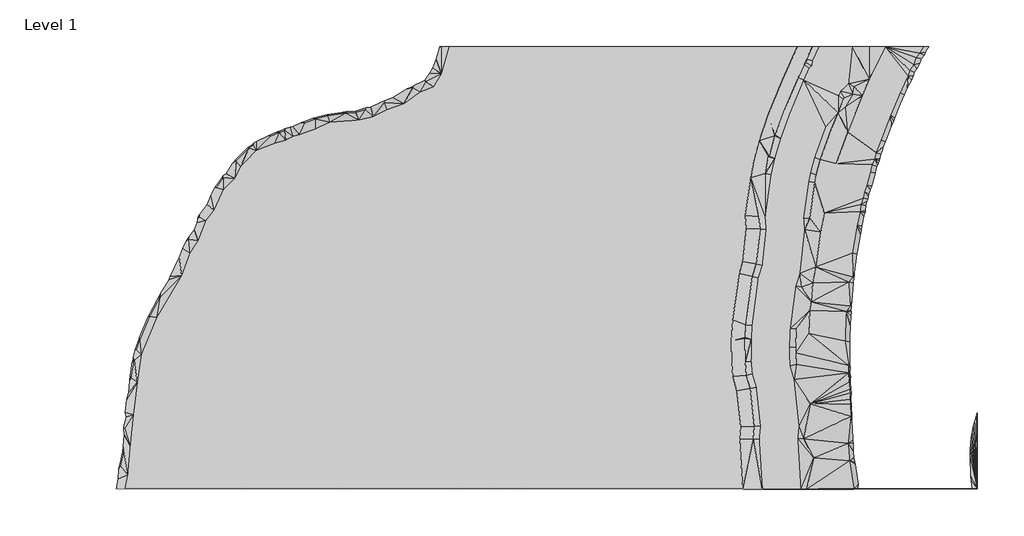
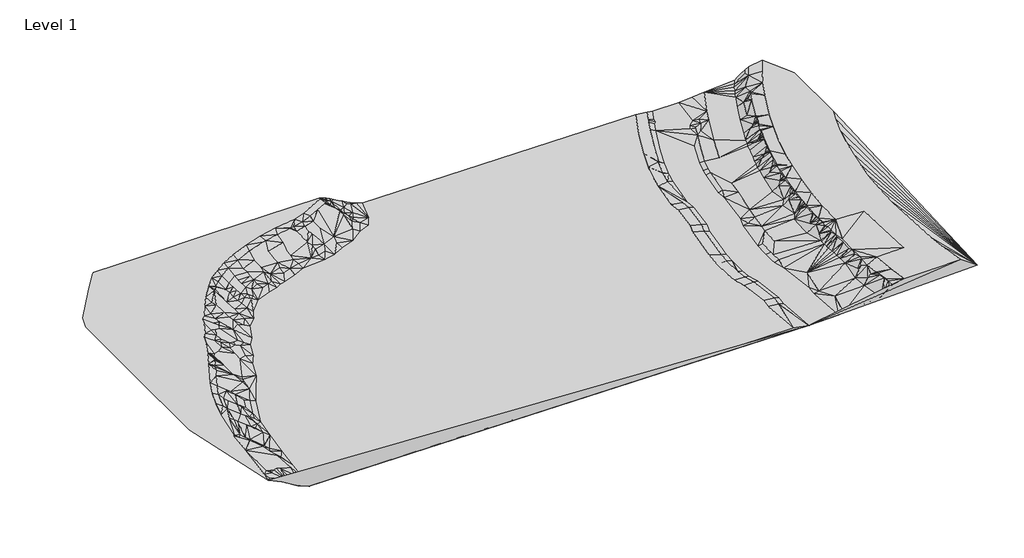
# One storey: 1 proxy.
"""IFC4 building model written with IfcOpenShell, lengths in millimetres."""

from ifc_helpers import new_model, si_unit, origin, place, context, project, spatial, triangles, element, save

model = new_model("IFC4")

# Units and contexts
model_context = context("Model", 3, world=origin())
ifc_project = project(units=[si_unit("LENGTHUNIT", "METRE", prefix="MILLI")], contexts=[model_context])

# Site, building, storey
site = spatial("IfcSite", under=ifc_project)
building = spatial("IfcBuilding", under=site)
storey = spatial("IfcBuildingStorey", under=building, Name="Level 1", Elevation=0.0)

# Proxy
placement = place(None, origin())
element("IfcBuildingElementProxy", 1, Name="Building Element Proxy", at=placement, inside=storey, context=model_context, shape_type="Tessellation", body=[
    triangles([(-116676.2735596, -32294.1497314, 9000.0000687), (-116676.2735596, 11611.0482513, 9000.0000687), (-116676.2735596, 46048.7566772, 9000.0000687), (-114721.8812256, 51743.71604, 9000.0000687), (-107628.8165039, -3064.8135086, 9000.0000687), (-107468.0542236, -76033.9217651, 9000.0000687), (-106894.5357422, -72001.3493042, 9000.0000687), (-105530.6468994, -73857.8545898, 8000.000061), (-104922.7398193, -54812.9240479, 9000.0000687), (-104125.4117432, 65879.8113281, 9000.0000687), (-104030.0501221, -44213.8733276, 9000.0000687), (-104029.5013184, -68672.3338989, 8000.000061), (-103868.9250732, 37662.6778564, 9000.0000687), (-103502.3893066, -43674.6829834, 9000.0000687), (-103493.1154541, -73571.5418335, 7000.0000534), (-103362.6303955, -76033.9217651, 7000.0000534), (-102433.4685059, -70185.5903687, 7000.0000534), (-102097.3866943, -44848.5276123, 8000.000061), (-102042.1435547, -68278.1021484, 7000.0000534), (-101800.9117676, 8238.9732651, 9000.0000687), (-101455.574707, -73285.2290771, 6000.0000458), (-101333.5263428, -76033.9217651, 6000.0000458), (-101159.2858154, -29721.5486206, 9000.0000687), (-100971.9577148, -43638.9177246, 8000.000061), (-100164.7139648, -45483.181897, 7000.0000534), (-100058.8134521, -67409.4760986, 6000.0000458), (-99620.4588135, -76033.9217651, 5000.0000381), (-99333.7507324, -44591.3014526, 7000.0000534), (-99300.236499, -22231.5360352, 9000.0000687), (-99077.2919678, -31942.2223755, 8000.000061), (-98232.0412354, -46117.8315308, 6000.0000458), (-98231.3715088, 47714.8177734, 9000.0000687), (-98029.9977539, -66022.4723877, 5000.0000381), (-97800.7001221, -45677.0723877, 6000.0000458), (-97701.1992188, -73178.8588257, 4000.0000305), (-97357.6201904, -32335.1611816, 7000.0000534), (-97282.0062012, 74628.9005493, 9000.0000687), (-97158.8044189, -23773.4907532, 8000.000061), (-97115.6256592, -15843.3003845, 9000.0000687), (-96288.4761475, -76033.9217651, 3000.0000229), (-96261.7708008, 75728.6938843, 9000.0000687), (-96068.2942383, -65407.6634033, 4000.0000305), (-95751.2252197, -32825.4638123, 6000.0000458), (-95613.6708252, -24715.8006775, 7000.0000534), (-95076.2524658, -17467.5942627, 8000.000061), (-94685.0019287, -47509.5698364, 4000.0000305), (-94643.5625977, -16232.367334, 8000.000061), (-94639.3954102, -49564.7234619, 4000.0000305), (-94598.8490479, -76033.9217651, 2000.0000153), (-94357.7102783, 24969.4247314, 9000.0000687), (-94284.8310059, -73454.4978149, 2000.0000153), (-94226.2764404, -9454.0490982, 9000.0000687), (-94108.8324463, -64803.5932983, 3000.0000229), (-94107.0837158, -25490.4440918, 6000.0000458), (-93612.6301758, -18519.5242401, 7000.0000534), (-93067.6959961, -48022.2315674, 3000.0000229), (-93014.5736572, -52429.1207153, 3000.0000229), (-92603.2871338, -34101.188269, 4000.0000305), (-92287.3436279, -76033.9217651, 1000.0000076), (-92279.0557617, -11165.8010101, 8000.000061), (-92138.5341064, -19321.7043457, 6000.0000458), (-92125.5023438, -63934.9672485, 2000.0000153), (-91524.3762451, -49225.8883301, 2000.0000153), (-91397.2398193, -54955.8734619, 2000.0000153), (-91300.1387695, -68158.1187744, 1000.0000076), (-90986.8555664, -26724.0664673, 4000.0000305), (-90972.1494873, -34467.4449829, 3000.0000229), (-90164.0220703, 31892.0254395, 9000.0000687), (-90142.181543, -63066.3365479, 1000.0000076), (-89828.814624, -55278.4351685, 1000.0000076), (-89808.1182129, -76033.9217651, 0.0), (-89614.4463135, -13443.4143127, 6000.0000458), (-89382.7674316, -27206.7579346, 3000.0000229), (-89345.3650635, -34942.8206177, 2000.0000153), (-89313.3112061, -5487.6348083, 8000.000061), (-89017.692041, -20517.0151062, 4000.0000305), (-88454.5357178, 1758.2880249, 9000.0000687), (-87681.4852295, -37956.0157654, 1000.0000076), (-87677.2994385, -27413.2453308, 2000.0000153), (-87648.9848877, -13282.2671722, 5000.0000381), (-87626.2885986, -2202.1046848, 8000.000061), (-87624.3631348, -21513.2566223, 3000.0000229), (-86704.4750977, -133.0016383, 8000.000061), (-86695.2384521, -31968.4417053, 1000.0000076), (-86414.409082, -14508.3667511, 4000.0000305), (-86273.1432861, 38792.7181824, 9000.0000687), (-86080.5875977, 934.0961088, 8000.000061), (-85989.4210693, 64987.4657959, 9000.0000687), (-85848.825, -28342.9164917, 1000.0000076), (-85754.7005127, -21424.10625, 2000.0000153), (-85398.4431885, 2317.584264, 8000.000061), (-84716.2987793, 3701.0723465, 8000.000061), (-84679.7614746, -24879.5162659, 1000.0000076), (-84533.2773926, 4282.377562, 8000.000061), (-84174.8248535, -29980.2909668, 0.0), (-84034.1543701, 5084.5605743, 8000.000061), (-83884.1449219, -16923.2960907, 2000.0000153), (-83809.554126, 5754.1708649, 8000.000061), (-83352.0192627, 6468.0488022, 8000.000061), (-82851.2963379, 7482.3124741, 8000.000061), (-82526.8789307, 14092.8653687, 9000.0000687), (-81797.090918, 1873.3286774, 6000.0000458), (-81342.2628662, -16907.584259, 1000.0000076), (-81164.9713623, 17837.2879761, 9000.0000687), (-80340.1751953, -2728.3663124, 4000.0000305), (-79955.501001, 9466.286142, 7000.0000534), (-79627.9116943, 19891.5346802, 9000.0000687), (-79388.0379639, 49351.6853027, 9000.0000687), (-79326.4882324, 17043.8747772, 8000.000061), (-78897.1562988, -17266.875119, 0.0), (-78362.7424072, -6383.9673065, 2000.0000153), (-77778.7268921, -10298.1900146, 1000.0000076), (-77499.0369873, -5015.5031616, 2000.0000153), (-77452.8351563, 16297.4598724, 7000.0000534), (-76953.6749268, -3439.0377594, 2000.0000153), (-76702.099585, 12563.0587463, 6000.0000458), (-76459.1144165, 26121.370697, 9000.0000687), (-75797.9408203, 21925.2593811, 8000.000061), (-75677.1807495, 28399.8688293, 9000.0000687), (-75489.1503662, 15671.3725067, 6000.0000458), (-75072.8687988, 19488.6906647, 7000.0000534), (-74866.3790771, 75728.6938843, 9000.0000687), (-74314.9104126, 29870.6209167, 9000.0000687), (-74245.7750977, 17418.4530762, 6000.0000458), (-73878.3417114, 27518.8388855, 8000.000061), (-73496.2161987, 22509.6074341, 7000.0000534), (-72713.273291, 12836.9315643, 4000.0000305), (-72189.2494629, 10089.2713715, 3000.0000229), (-72079.5026733, 26637.8089417, 7000.0000534), (-71657.5098267, 7354.2714523, 2000.0000153), (-71271.4124634, 15901.5607819, 4000.0000305), (-71023.2648193, 23592.8924744, 6000.0000458), (-70771.210437, 30994.9708923, 8000.000061), (-70747.5235107, 35678.8501099, 9000.0000687), (-70341.1622681, -2820.2115784, 0.0), (-70280.6636353, 25756.7789978, 6000.0000458), (-69936.8241577, 28960.6020447, 7000.0000534), (-69266.2185791, 14886.4529755, 3000.0000229), (-68997.3512695, 27236.409613, 6000.0000458), (-68789.5081421, 17106.7011749, 3000.0000229), (-68022.7409912, 9510.99039, 1000.0000076), (-67545.9514893, 4829.094191, 0.0), (-67535.7195557, 40424.9139038, 9000.0000687), (-66970.5912598, 15046.2885681, 2000.0000153), (-66544.7474854, 37560.5747864, 8000.000061), (-66261.9228882, 18346.8743134, 2000.0000153), (-65140.6703979, 36445.3893677, 7000.0000534), (-64862.6687622, 24276.7298035, 3000.0000229), (-64676.9219604, 9239.1424484, 0.0), (-64260.0311279, 17138.6643402, 1000.0000076), (-63495.7056885, 32965.5971191, 5000.0000381), (-62961.8406006, 46181.5206665, 9000.0000687), (-62815.5890625, 30925.4751343, 4000.0000305), (-62101.4187012, 15968.4101898, 0.0), (-61793.8932861, 43849.2537231, 8000.000061), (-61663.8268066, 29659.2500977, 3000.0000229), (-61139.2309204, 44429.6229492, 8000.000061), (-61021.9264526, 27559.2015381, 2000.0000153), (-60174.6990967, 45489.1164185, 8000.000061), (-59864.3366455, 45946.2327026, 8000.000061), (-59357.8977905, 38639.5368347, 5000.0000381), (-59305.0265991, 19580.9513123, 0.0), (-59188.2662842, 50121.317395, 9000.0000687), (-58605.7762573, 36873.7329895, 4000.0000305), (-58484.2580933, 27296.8896423, 1000.0000076), (-58348.4570801, 69132.6825439, 9000.0000687), (-57579.5877319, 35484.2224548, 3000.0000229), (-57552.7614624, 48215.0663086, 8000.000061), (-57054.5314087, 33395.5662231, 2000.0000153), (-56291.2431152, 44699.7971558, 6000.0000458), (-56080.5350464, 26676.529834, 0.0), (-56074.8191162, 30776.7679321, 1000.0000076), (-55195.5006958, 43420.7031372, 5000.0000381), (-54952.7480713, 53607.4208862, 9000.0000687), (-54808.8824341, 41447.8561157, 4000.0000305), (-54539.7546753, 50837.6969238, 8000.000061), (-53805.0878906, 40072.7633057, 3000.0000229), (-53039.8136719, 47671.2669434, 6000.0000458), (-52678.2357422, 38782.9838928, 2000.0000153), (-52254.5220703, 46165.7634888, 5000.0000381), (-52252.1315186, 30397.8282715, 0.0), (-51719.5082153, 36405.1732178, 1000.0000076), (-51435.6232178, 44678.5240356, 4000.0000305), (-50502.4941284, 43276.3119507, 3000.0000229), (-50184.4949341, 34459.2129272, 0.0), (-50183.4949951, 56660.4903442, 9000.0000687), (-49785.7657837, 41667.2799316, 2000.0000153), (-49780.798645, 54011.8845703, 8000.000061), (-48844.1906982, 50605.5715576, 6000.0000458), (-48356.7041748, 48958.9743896, 5000.0000381), (-47828.3643311, 42992.6083374, 2000.0000153), (-47608.8567993, 47453.7499878, 4000.0000305), (-47300.1919189, 40853.952832, 1000.0000076), (-46807.4545532, 45980.1283081, 3000.0000229), (-45832.8768311, 41940.7516113, 1000.0000076), (-44805.17677, 40098.4640625, 0.0), (-44740.7993042, 44978.891748, 2000.0000153), (-44491.3075562, 59540.2727051, 9000.0000687), (-44190.4328979, 75728.6938843, 9000.0000687), (-44033.154126, 56996.5070435, 8000.000061), (-43704.4532593, 53404.4286255, 6000.0000458), (-42642.3180908, 52042.9535889, 5000.0000381), (-42352.2892822, 50340.0947388, 4000.0000305), (-41689.9529663, 48801.7374756, 3000.0000229), (-41350.3225342, 46961.7474609, 2000.0000153), (-39908.5640259, 44971.980542, 1000.0000076), (-38494.2666321, 42519.6511597, 0.0), (-37219.6002502, 59818.306897, 8000.000061), (-37175.0355286, 56213.978064, 6000.0000458), (-37013.1477356, 62548.5262939, 9000.0000687), (-36879.0117371, 46196.5848633, 1000.0000076), (-35964.0606079, 53093.6522461, 4000.0000305), (-35931.141687, 51333.7224609, 3000.0000229), (-35037.3543823, 46892.4168091, 1000.0000076), (-34697.098407, 43596.6877441, 0.0), (-33769.7364075, 50078.9990479, 2000.0000153), (-32183.3588196, 44940.8382568, 0.0), (-30079.5546753, 45477.1357544, 0.0), (-29664.4683838, 62294.8208496, 8000.000061), (-29657.9664551, 58762.6969116, 6000.0000458), (-29503.6223877, 64938.3897217, 9000.0000687), (-28730.7904907, 55551.4836182, 4000.0000305), (-28424.7998657, 62699.4194092, 8000.000061), (-28413.4703247, 52054.9621582, 2000.0000153), (-28237.7275635, 53952.8602661, 3000.0000229), (-28237.5043213, 49457.8044067, 1000.0000076), (-24605.3632324, 47462.0518066, 0.0), (-24554.1919373, 50849.4636475, 1000.0000076), (-22607.280542, 64008.7534424, 8000.000061), (-22087.1611267, 57248.4498047, 4000.0000305), (-21976.5492737, 60651.9490356, 6000.0000458), (-21871.5394043, 66697.1660889, 9000.0000687), (-21582.6105286, 55643.8779785, 3000.0000229), (-21392.1593628, 53962.2550415, 2000.0000153), (-20322.4246582, 51937.8018677, 1000.0000076), (-19561.5408691, 49783.2078003, 0.0), (-16622.4725922, 64988.8889648, 8000.000061), (-16045.4903687, 65178.3425171, 8000.000061), (-14706.0988678, 65302.4140137, 8000.000061), (-14285.6698792, 63591.9416748, 7000.0000534), (-14230.3093048, 52863.9685913, 1000.0000076), (-12549.9374542, 58821.1166016, 4000.0000305), (-12447.947168, 68343.9911499, 9000.0000687), (-11149.6659485, 57447.5678833, 3000.0000229), (-10797.9699738, 55773.7863281, 2000.0000153), (-10739.71539, 53096.5311401, 1000.0000076), (-10438.8953796, 66342.8435303, 8000.000061), (-10356.5411041, 64495.3283936, 7000.0000534), (-9751.0530624, 50521.0790405, 0.0), (-9711.1095703, 62950.7156982, 6000.0000458), (-8892.7176636, 61471.6292358, 5000.0000381), (-7955.6748596, 60044.0140503, 4000.0000305), (-7647.7965591, 70061.2444702, 9000.0000687), (-7405.6741287, 54079.3176636, 1000.0000076), (-6085.5669159, 57124.0713501, 2000.0000153), (-5786.7834091, 68190.5307495, 8000.000061), (-5712.9507065, 66268.2341309, 7000.0000534), (-4943.7790512, 64786.2920288, 6000.0000458), (-4714.4052612, 51724.4009399, 0.0), (-4174.4056641, 63304.4475952, 5000.0000381), (-1190.7351677, 70477.2330322, 8000.000061), (-912.8562716, 56489.0263916, 1000.0000076), (-461.6014029, 59535.3009155, 2000.0000153), (9.8007258, 53993.7600952, 0.0), (2166.8123623, 74936.7282715, 9000.0000687), (2555.0696228, 75728.6938843, 9000.0000687), (3057.5781944, 72590.7691406, 8000.000061), (4046.3347023, 73082.7437622, 8000.000061), (4472.4889229, 74188.9088013, 8000.000061), (4892.3961411, 74807.0943237, 8000.000061), (5233.8346024, 75728.6938843, 8000.000061), (5319.5032104, 71783.2835449, 7000.0000534), (5757.4939178, 56059.9874634, 0.0), (6498.6265869, 70496.0737427, 6000.0000458), (6573.7295609, 74270.2247681, 7000.0000534), (7114.0721603, 75728.6938843, 7000.0000534), (7691.3404129, 69235.1646606, 5000.0000381), (8153.1267609, 69812.1247925, 5000.0000381), (8661.6463028, 67873.2524414, 4000.0000305), (8842.2846954, 61594.910083, 1000.0000076), (8908.9579514, 75728.6938843, 6000.0000458), (9337.3951721, 68572.7632324, 4000.0000305), (10514.5721558, 65046.494751, 2000.0000153), (10544.058728, 67393.9421631, 3000.0000229), (10673.9728912, 75728.6938843, 5000.0000381), (10813.0957947, 71640.4736572, 4000.0000305), (11349.4677063, 60120.8977295, 0.0), (11657.3570526, 65982.5352905, 2000.0000153), (12132.5222351, 66649.6155029, 2000.0000153), (12455.0630127, 75728.6938843, 4000.0000305), (13322.2275238, 63691.8797607, 1000.0000076), (13633.0225067, 69629.3685059, 2000.0000153), (13885.1187469, 74721.6390747, 3000.0000229), (14239.3982849, 75728.6938843, 3000.0000229), (15722.6612366, 74835.353064, 2000.0000153), (16002.4057892, 62005.9501099, 0.0), (16020.4953827, 75728.6938843, 2000.0000153), (18626.7444397, 75728.6938843, 1000.0000076), (18661.2772156, 66354.0149414, 0.0), (21321.7636597, 75728.6938843, 0.0), (118073.5185059, -25230.206488, -1000.0000076), (118131.3382324, -32628.5549011, -1000.0000076), (118507.4083008, -37493.7160767, -1000.0000076), (118515.696167, -18089.7551239, -1000.0000076), (119964.8263184, -42464.2033813, -1000.0000076), (120683.8428955, -2109.3516254, -1000.0000076), (120856.4184082, -58849.7195068, -1000.0000076), (121274.9696045, -54693.5452881, -1000.0000076), (121902.4940918, -76033.9217651, -1000.0000076), (122001.1764404, 1998.2021599, -1000.0000076), (122690.0739258, -24375.1191467, -1500.0000114), (122766.9994629, -32434.678363, -1500.0000114), (122815.5081299, 17745.5982239, -1000.0000076), (122862.7424561, -24126.2668945, -1500.0000114), (123057.9956543, -19791.2710327, -1500.0000114), (123184.173999, -37022.5959961, -1500.0000114), (123203.9495361, 13205.4137238, -1000.0000076), (124530.7801758, -41548.4081177, -1500.0000114), (124676.4922119, 30839.0990112, -1000.0000076), (124848.3049805, -32347.6325134, -2000.0000153), (124915.7520264, -24819.8547913, -2000.0000153), (125134.3526367, -19966.4324341, -2000.0000153), (125222.2263428, -3143.9037392, -1500.0000114), (125232.1885254, -36604.7122009, -2000.0000153), (125515.0921875, -58892.535498, -1500.0000114), (125835.8074951, 37109.0628113, -1000.0000076), (125934.9177246, -54654.8174194, -1500.0000114), (126561.7352783, 1032.7848524, -1500.0000114), (126580.7852783, -41137.2332153, -2000.0000153), (127261.0693359, -3604.599456, -2000.0000153), (127507.1659424, 17348.3538666, -1500.0000114), (127534.6712402, 43485.234082, -1000.0000076), (127604.2576904, -58935.2166138, -2000.0000153), (127862.0838135, 13149.3066833, -1500.0000114), (128027.1249023, -54637.4277832, -2000.0000153), (128609.3126221, 599.3356556, -2000.0000153), (128701.1209717, -76106.7824341, -2000.0000153), (129601.3543945, 17296.3151825, -2000.0000153), (129603.1868408, 32100.1848267, -1500.0000114), (129953.4724365, 13124.1151978, -2000.0000153), (130567.7512207, 52085.0533447, -1000.0000076), (130762.7160645, 37907.2978088, -1500.0000114), (130969.6522705, 38165.7843567, -1500.0000114), (131651.2571777, 31723.7543152, -2000.0000153), (132870.4757813, 37208.5311584, -2000.0000153), (132920.221582, 45107.1443848, -1500.0000114), (133144.8032227, 45302.0813232, -1500.0000114), (134925.8759033, 44090.9459473, -2000.0000153), (135465.1732178, 64195.0211426, -1000.0000076), (136076.8568115, 53373.1142578, -1500.0000114), (137948.1286377, -27514.5019409, -2000.0000153), (137962.3696289, -29458.9367432, -2000.0000153), (138013.3153564, 52607.9051514, -2000.0000153), (138143.7166992, -33848.6385681, -2000.0000153), (138238.3155762, -21071.8882141, -2000.0000153), (139518.4420898, -38542.3171875, -2000.0000153), (140030.7829102, -27549.909082, -1500.0000114), (140044.5030029, -29459.4878723, -1500.0000114), (140128.2839355, -6512.069371, -2000.0000153), (140198.6145264, -33398.4846497, -1500.0000114), (140314.6632568, -21247.0519409, -1500.0000114), (140679.9618896, 75728.6938843, -1000.0000076), (140831.7944824, -58706.9468262, -2000.0000153), (140917.6218018, 65014.0967285, -1500.0000114), (141231.1282471, -54527.6995972, -2000.0000153), (141531.6773437, -2136.1800751, -2000.0000153), (141867.8986816, -76033.9217651, -2000.0000153), (142236.480835, -6756.4968933, -1500.0000114), (142816.9012207, 16960.643811, -2000.0000153), (142818.6034424, 64164.6322998, -2000.0000153), (142904.0679932, -58909.8414185, -1500.0000114), (142939.5355957, 69540.6297363, -1500.0000114), (143152.3133057, 12965.1330414, -2000.0000153), (143682.5321045, 70224.5321777, -1500.0000114), (143799.7993652, 71390.9260986, -1500.0000114), (143954.320166, -76033.9217651, -1500.0000114), (144487.0504395, -22746.006958, -1000.0000076), (144576.710083, 29348.0714172, -2000.0000153), (144668.2579834, 68301.9472046, -2000.0000153), (144897.0905273, -14822.820813, -1000.0000076), (144911.0989746, 16908.605127, -1500.0000114), (145006.6652344, -46825.8627319, -1000.0000076), (145168.1344482, 32310.0069031, -2000.0000153), (145349.6024414, -11830.9662231, -1000.0000076), (145675.043042, 69228.6580811, -2000.0000153), (145813.3973877, 75728.6938843, -1500.0000114), (145837.4889404, 70844.5036377, -2000.0000153), (145958.0304199, -5335.1499298, -1000.0000076), (146218.0331543, -65404.6868408, -1000.0000076), (146557.296167, 37558.4353821, -2000.0000153), (146624.7804199, 28971.6409058, -1500.0000114), (146897.6288818, 101.938409, -1000.0000076), (147197.545459, 31840.1309326, -1500.0000114), (148118.1869385, 75728.6938843, -2000.0000153), (148538.4496582, 36915.8211182, -1500.0000114), (148729.64729, 12101.0299713, -1000.0000076), (149798.5029785, 18622.528418, -1000.0000076), (150362.9336426, 48098.292041, -2000.0000153), (152290.1648438, 47310.1029419, -1500.0000114), (153937.5712646, 35504.9281677, -1000.0000076), (154697.6830078, 53098.7403076, -1500.0000114), (154815.8060303, 58803.6339478, -2000.0000153), (155571.173877, 60478.0433716, -2000.0000153), (156476.0674805, 57410.2771362, -1500.0000114), (156716.7783691, 57954.169519, -1500.0000114), (157060.9248047, -25330.5329224, 0.0), (157158.9095215, 54960.9336182, -1500.0000114), (157464.0443848, -15201.0674927, 0.0), (157884.0931641, 46432.0960693, -1000.0000076), (158145.6585938, -60407.9639282, 0.0), (158249.8382813, 62943.6463623, -2000.0000153), (158293.1472656, -5124.530809, 0.0), (158340.7350586, -33627.3637024, 1000.0000076), (158353.9807617, -36300.849353, 1000.0000076), (158426.7577148, -34272.1801575, 1000.0000076), (158484.0379395, -39306.6054199, 1000.0000076), (158587.3804687, -37788.326001, 1000.0000076), (158606.0583984, -66324.3237305, 0.0), (158672.5287598, -41893.0754517, 1000.0000076), (158744.1336914, -45318.1268555, 1000.0000076), (158811.5342285, -43117.4239746, 1000.0000076), (158872.9816406, -13291.7921722, 1000.0000076), (158912.5513184, -47705.2137085, 1000.0000076), (158938.6892578, -46878.3385986, 1000.0000076), (159033.4741699, -51119.9959717, 1000.0000076), (159535.1923828, 75728.6938843, -2000.0000153), (159549.5915039, 4807.7452034, 0.0), (159574.7620605, -30465.8310974, 2000.0000153), (159647.9296875, -23123.4397339, 2000.0000153), (159727.682959, 59388.6959106, -1500.0000114), (159781.7261719, -3297.6283676, 1000.0000076), (160110.524707, -76033.9217651, 0.0), (160126.9888184, -13290.5259705, 2000.0000153), (160242.3492187, 61947.7722656, -1500.0000114), (160548.4142578, -57855.6918091, 2000.0000153), (160771.7680664, -5447.4913284, 2000.0000153), (160803.6730957, -26271.680127, 3000.0000229), (160993.4847656, -64787.3524292, 2000.0000153), (161170.3111816, -76033.9217651, 1000.0000076), (161231.2376953, 14501.7985474, 0.0), (161331.5478516, -13897.974939, 3000.0000229), (161814.6811523, -58030.7043823, 3000.0000229), (162011.5063477, 4375.8997604, 2000.0000153), (162212.2010742, -4004.6834656, 3000.0000229), (162249.3708984, -64817.9180054, 3000.0000229), (162252.1242188, 19076.0530609, 0.0), (162445.0798828, -25388.0084839, 4000.0000305), (162464.4461426, 21463.2317688, 0.0), (162505.0390137, -76033.9217651, 2000.0000153), (162532.5164063, -23017.3276062, 4000.0000305), (162546.5992676, -22713.6205627, 4000.0000305), (162562.2448242, -29789.9653748, 4000.0000305), (162562.9703613, -29396.3870728, 4000.0000305), (162633.6637207, -20539.7276733, 4000.0000305), (162647.746582, -20236.0206299, 4000.0000305), (162679.0562988, -34388.7125793, 4000.0000305), (162679.7818359, -33995.1342773, 4000.0000305), (162734.8296387, -18062.1289032, 4000.0000305), (162748.8938965, -17758.420697, 4000.0000305), (162797.3188477, -38200.3008545, 4000.0000305), (162835.3630371, -38532.1782715, 4000.0000305), (162835.9769531, -15584.5289703, 4000.0000305), (162839.5488281, 58789.5092285, -1000.0000076), (162850.0598145, -15280.8219269, 4000.0000305), (162876.9046875, -24139.4823669, 4000.0000305), (162947.8770996, -42733.6613525, 4000.0000305), (162983.2609863, -21666.723999, 4000.0000305), (163028.3373047, -13121.3258331, 4000.0000305), (163089.5986816, -19193.9667938, 4000.0000305), (163098.4539551, -47267.0265015, 4000.0000305), (163167.1753418, -27131.4532288, 4000.0000305), (163168.8682617, -27475.2764282, 4000.0000305), (163189.1833008, -33318.7871887, 4000.0000305), (163193.7783691, -30827.5183228, 4000.0000305), (163195.936377, -16721.2084259, 4000.0000305), (163214.0748047, -36671.0290833, 4000.0000305), (163216.6979004, -51078.6124512, 4000.0000305), (163233.459668, -10660.5760345, 4000.0000305), (163248.1564453, -51581.0282959, 4000.0000305), (163260.304541, -10359.3223297, 4000.0000305), (163272.9921387, 23650.3075745, 0.0), (163325.137793, -14251.8498505, 4000.0000305), (163367.2747559, -55611.9776001, 4000.0000305), (163438.5820312, -8199.826236, 4000.0000305), (163448.0884277, -42100.6720825, 4000.0000305), (163465.4083008, -7898.5725311, 4000.0000305), (163511.8612793, 5723.9808472, 3000.0000229), (163517.8330078, -60145.3380981, 4000.0000305), (163535.2831055, -11797.0601532, 4000.0000305), (163643.7043945, -5739.0770187, 4000.0000305), (163670.2702148, 13955.6865326, 2000.0000153), (163670.5306641, -5437.8227325, 4000.0000305), (163682.939209, 25704.1077942, 0.0), (163711.588623, -48391.2881104, 4000.0000305), (163745.4470215, -9342.2722, 4000.0000305), (163830.3720703, -76033.9217651, 3000.0000229), (163940.0956055, -3311.7635513, 4000.0000305), (163945.6022461, -53820.9287842, 4000.0000305), (163946.9789063, -40416.9143921, 4000.0000305), (163947.4998047, -65595.7682007, 4000.0000305), (163955.6109375, -6887.4830841, 4000.0000305), (163979.6466797, -3015.7682465, 4000.0000305), (164188.6757812, -4440.8231232, 4000.0000305), (164249.2116211, -889.7086292, 4000.0000305), (164288.7626953, -593.713397, 4000.0000305), (164340.5734863, -68205.3065918, 4000.0000305), (164487.2436035, -66685.5528442, 4000.0000305), (164502.5542969, -2026.2353325, 4000.0000305), (164517.6975586, 28170.4060913, 0.0), (164558.3276367, 1532.3461475, 4000.0000305), (164597.8787109, 1828.3414524, 4000.0000305), (164733.647168, -70814.8449829, 4000.0000305), (164816.4328125, 388.3523129, 4000.0000305), (164862.7555664, -69169.6012207, 4000.0000305), (164867.4436523, 3954.4010696, 4000.0000305), (164906.9947266, 4250.3960838, 4000.0000305), (165082.4444824, -73137.019519, 4000.0000305), (165130.2927246, 2802.9399582, 4000.0000305), (165238.2675293, -71653.6449463, 4000.0000305), (165239.0302734, 64453.8053467, -1000.0000076), (165240.853418, 15233.565509, 3000.0000229), (165266.8797363, 6321.306015, 4000.0000305), (165318.9881836, 6608.9617126, 4000.0000305), (165378.9845215, 75728.6938843, -1500.0000114), (165466.8489258, 5203.9951447, 4000.0000305), (165519.7759277, -76033.9217651, 4000.0000305), (165678.8545898, 8679.8713531, 4000.0000305), (165756.0033691, 23252.6923096, 2000.0000153), (165762.384375, 32690.5022827, 0.0), (165883.2700195, 7553.5482422, 4000.0000305), (166090.8480469, 11038.4366913, 4000.0000305), (166299.6725098, 9903.1013397, 4000.0000305), (166341.3257812, 35290.3482422, 0.0), (166554.9685547, 13684.6588898, 4000.0000305), (167004.1504395, 15682.875293, 4000.0000305), (167068.6860352, 15960.2525482, 4000.0000305), (167163.136084, 14613.9230988, 4000.0000305), (167175.65625, 37043.2714783, 0.0), (167328.4097168, 24220.577417, 3000.0000229), (167401.298291, -29589.5217957, 5000.0000381), (167517.8679199, 17958.4689514, 4000.0000305), (167582.4035156, 18235.8450439, 4000.0000305), (167689.5597656, -18897.6755768, 5000.0000381), (167697.3360352, 16940.1008789, 4000.0000305), (167699.4196289, 39364.6530396, 0.0), (168031.5854004, 20234.0626099, 4000.0000305), (168231.5359863, 19266.2786591, 4000.0000305), (168352.8681152, -9241.4155655, 5000.0000381), (168433.3097168, -58719.9460327, 5000.0000381), (168545.3028809, 22509.6539429, 4000.0000305), (168609.819873, 22787.0323608, 4000.0000305), (168765.7359375, 21592.4564392, 4000.0000305), (168790.0135254, 33921.2922729, 2000.0000153), (169143.5361328, 24714.3542542, 4000.0000305), (169245.7438477, -68124.3719971, 5000.0000381), (169314.0931641, 23869.803479, 4000.0000305), (169385.0841797, 43538.8726685, 0.0), (169422.979541, 285.3020077, 5000.0000381), (169753.359375, 26909.3807373, 4000.0000305), (169929.4416504, 26054.2840942, 4000.0000305), (170066.7169922, 33797.9184082, 3000.0000229), (170363.1826172, 29104.4095459, 4000.0000305), (170472.0317871, -76033.9217651, 5000.0000381), (170544.7715332, 28238.762384, 4000.0000305), (170715.7006348, 75728.6938843, -1000.0000076), (170894.6664551, 9582.3273148, 5000.0000381), (170973.0058594, 31299.4360291, 4000.0000305), (171049.1500488, 31567.1406189, 4000.0000305), (171160.1200195, 30423.2429993, 4000.0000305), (171655.4758301, 33426.3666687, 4000.0000305), (171793.551123, 32590.5409424, 4000.0000305), (171801.4576172, 42871.6622314, 2000.0000153), (172347.8800781, 35543.93974, 4000.0000305), (172490.2527832, 34698.0518372, 4000.0000305), (172538.5103027, 17675.7862061, 5000.0000381), (172604.329541, 51973.7624634, 0.0), (173040.2843262, 37661.5151367, 4000.0000305), (173186.9544434, 36805.5650574, 4000.0000305), (173248.4018555, 43179.4480957, 3000.0000229), (173818.729834, 40037.4352295, 4000.0000305), (174507.5063965, 41882.117981, 4000.0000305), (174584.264502, 40976.9453247, 4000.0000305), (174620.0018555, 42174.355957, 4000.0000305), (174899.2220215, 50987.4459229, 2000.0000153), (175005.9503906, 27205.9579834, 5000.0000381), (175308.778418, 44019.0387085, 4000.0000305), (175409.2560059, 43151.4870117, 4000.0000305), (175421.273877, 44311.2813354, 4000.0000305), (175970.9333496, 59894.7952515, 0.0), (176110.0504395, 46155.959436, 4000.0000305), (176234.2289063, 45326.0240479, 4000.0000305), (177599.5595215, 35570.1055847, 5000.0000381), (178250.7011719, 58869.6252686, 2000.0000153), (178593.8244141, 65600.3911743, 0.0), (179268.1460449, 67623.58396, 0.0), (179384.7900879, 58330.5930542, 3000.0000229), (179589.6706055, -29824.1842163, 5000.0000381), (180186.7504395, 56169.1528931, 4000.0000305), (180335.1320801, 43239.6862793, 5000.0000381), (180613.4964844, -58215.302417, 5000.0000381), (180624.5283691, 69535.5928345, 0.0), (181334.5501465, 71828.4714844, 0.0), (181860.4715332, 59825.6831909, 4000.0000305), (182578.232373, 61387.0343994, 4000.0000305), (182655.2323242, 73470.7991455, 0.0), (182658.8600098, 60599.0778442, 4000.0000305), (182809.1206055, -76033.9217651, 5000.0000381), (182855.0526855, 7224.2683411, 5000.0000381), (182990.4118652, 65937.6078003, 3000.0000229), (183956.0645508, 75728.6938843, 0.0), (185211.5228027, 55146.4153198, 5000.0000381), (185398.3765137, 75728.6938843, 1000.0000076), (185845.270166, 74000.8923706, 2000.0000153), (186840.7070801, 75728.6938843, 2000.0000153), (187347.7272949, 74105.2208862, 3000.0000229), (187378.9253906, 70892.8588257, 4000.0000305), (188283.05625, 75728.6938843, 3000.0000229), (188751.1020996, 62650.8921387, 5000.0000381), (190165.0437012, 75728.6938843, 4000.0000305), (191644.8975586, 38689.9081787, 5000.0000381), (191778.0429199, -30058.8489624, 5000.0000381), (192085.261377, -19383.7226532, 5000.0000381), (192274.3475098, 69375.9932739, 5000.0000381), (192704.3119629, -10783.5150421, 5000.0000381), (192793.7018555, -57710.6588013, 5000.0000381), (193369.40625, -64217.4383789, 5000.0000381), (193678.9501465, -2358.1307716, 5000.0000381), (194815.438916, 4866.1663467, 5000.0000381), (195146.2280273, -76033.9217651, 5000.0000381), (195934.5147949, 75728.6938843, 5000.0000381), (196516.7862305, 13061.7131927, 5000.0000381), (198356.1344238, 20190.597821, 5000.0000381), (200625.7075195, 27554.941333, 5000.0000381), (202389.0603516, -76033.9217651, 0.0), (202389.0603516, 32615.9789246, 5000.0000381), (202389.0603516, 62484.8790161, 5000.0000381), (-85300.1980225, 8238.9732651, 9000.0000687), (-85510.8921387, -39486.8641846, 0.0), (-86875.8227783, -50603.3809937, 0.0), (-87994.2754395, -61244.7640137, 0.0), (-88865.8408447, -71206.7140869, 0.0)], [[6, 16, 8], [337, 22, 16], [7, 8, 15], [8, 7, 6], [15, 8, 16], [7, 15, 17], [16, 22, 15], [1, 6, 7], [22, 27, 21], [337, 40, 27], [17, 21, 35], [17, 15, 21], [35, 21, 27], [17, 35, 26], [27, 40, 35], [21, 15, 22], [27, 22, 337], [7, 17, 12], [12, 19, 9], [19, 12, 17], [9, 25, 18], [31, 25, 9], [24, 18, 25], [9, 18, 11], [9, 19, 26], [12, 9, 7], [9, 48, 31], [33, 26, 35], [28, 31, 34], [28, 25, 31], [46, 34, 31], [58, 28, 34], [33, 42, 9], [9, 26, 33], [19, 17, 26], [24, 25, 28], [33, 35, 42], [1, 7, 9], [40, 49, 51], [337, 59, 49], [53, 42, 65], [42, 35, 51], [65, 42, 51], [64, 42, 53], [49, 59, 51], [51, 35, 40], [59, 71, 641], [309, 71, 337], [69, 62, 65], [62, 53, 65], [65, 51, 641], [69, 65, 641], [71, 309, 641], [51, 59, 641], [71, 59, 337], [64, 53, 62], [48, 57, 63], [9, 57, 48], [48, 56, 46], [56, 48, 63], [638, 78, 56], [34, 46, 78], [57, 639, 63], [46, 31, 48], [69, 640, 64], [640, 69, 641], [70, 639, 57], [70, 64, 640], [639, 70, 640], [70, 57, 64], [639, 640, 307], [57, 9, 64], [69, 64, 62], [56, 78, 46], [640, 641, 309], [42, 64, 9], [49, 40, 337], [56, 63, 638], [11, 14, 1], [11, 18, 14], [14, 23, 1], [30, 23, 14], [30, 14, 24], [29, 1, 23], [18, 24, 14], [11, 1, 9], [36, 43, 54], [36, 30, 24], [36, 44, 30], [44, 36, 54], [55, 38, 44], [30, 44, 23], [43, 66, 54], [36, 24, 43], [28, 43, 24], [38, 23, 44], [39, 5, 29], [38, 29, 23], [2, 5, 20], [2, 1, 5], [52, 20, 5], [2, 20, 50], [29, 38, 45], [5, 1, 29], [45, 47, 39], [55, 45, 38], [50, 20, 637], [60, 52, 39], [52, 77, 20], [52, 5, 39], [60, 39, 47], [45, 39, 29], [45, 55, 47], [2, 50, 13], [44, 54, 61], [613, 610, 605], [73, 67, 84], [78, 74, 67], [58, 73, 66], [73, 58, 67], [66, 73, 82], [54, 66, 76], [67, 74, 84], [78, 67, 58], [84, 79, 73], [638, 84, 78], [66, 82, 76], [73, 79, 82], [93, 82, 79], [85, 76, 97], [76, 82, 90], [74, 78, 84], [28, 58, 43], [76, 61, 54], [55, 61, 72], [55, 44, 61], [75, 60, 80], [60, 47, 72], [80, 60, 72], [75, 77, 52], [76, 72, 61], [72, 47, 55], [75, 105, 81], [85, 80, 72], [77, 81, 83], [77, 75, 81], [105, 83, 81], [637, 20, 77], [85, 112, 80], [111, 75, 80], [76, 85, 72], [75, 52, 60], [84, 89, 79], [66, 43, 58], [34, 78, 58], [87, 77, 83], [639, 638, 63], [95, 89, 84], [95, 638, 110], [93, 90, 82], [93, 89, 95], [90, 93, 103], [97, 76, 90], [95, 110, 93], [95, 84, 638], [90, 103, 97], [103, 93, 110], [105, 75, 111], [112, 85, 103], [102, 105, 115], [111, 80, 112], [103, 110, 112], [103, 85, 97], [638, 135, 110], [83, 105, 87], [92, 77, 91], [91, 87, 102], [77, 94, 637], [77, 92, 94], [94, 92, 102], [637, 94, 96], [91, 102, 92], [91, 77, 87], [96, 102, 98], [102, 96, 94], [99, 100, 637], [99, 98, 102], [100, 99, 102], [99, 637, 98], [106, 100, 102], [96, 98, 637], [87, 105, 102], [101, 637, 100], [113, 105, 111], [79, 89, 93], [305, 307, 308], [307, 305, 303], [312, 302, 303], [249, 149, 135], [135, 303, 259], [301, 302, 312], [316, 312, 303], [135, 638, 639], [318, 305, 308], [307, 325, 308], [314, 311, 321], [311, 301, 312], [315, 314, 322], [311, 314, 301], [321, 311, 312], [305, 316, 303], [307, 303, 135], [301, 314, 315], [112, 113, 111], [113, 112, 135], [115, 135, 130], [135, 115, 113], [130, 135, 142], [115, 130, 102], [135, 112, 110], [113, 115, 105], [306, 304, 323], [149, 142, 135], [301, 304, 273], [302, 301, 259], [323, 310, 306], [130, 142, 141], [306, 310, 317], [302, 259, 303], [301, 315, 304], [130, 106, 102], [309, 325, 307], [307, 135, 639], [640, 309, 307], [313, 306, 317], [106, 116, 101], [116, 106, 128], [101, 114, 109], [114, 101, 116], [107, 109, 114], [101, 109, 104], [116, 120, 114], [106, 101, 100], [131, 127, 138], [127, 120, 116], [120, 131, 124], [131, 120, 127], [126, 124, 140], [120, 124, 114], [127, 128, 138], [127, 116, 128], [130, 128, 106], [121, 114, 124], [50, 107, 68], [118, 107, 121], [119, 117, 125], [118, 117, 107], [126, 117, 118], [107, 117, 68], [104, 109, 107], [50, 104, 107], [126, 125, 117], [126, 121, 124], [137, 123, 125], [123, 119, 125], [129, 125, 126], [137, 125, 129], [129, 126, 132], [118, 121, 126], [114, 121, 107], [68, 117, 119], [140, 124, 131], [104, 50, 101], [138, 141, 144], [141, 138, 128], [140, 144, 146], [144, 140, 138], [150, 146, 144], [140, 146, 132], [144, 141, 149], [140, 132, 126], [154, 150, 144], [154, 149, 162], [154, 162, 150], [162, 149, 249], [162, 215, 181], [146, 150, 148], [304, 306, 296], [154, 144, 149], [130, 141, 128], [148, 150, 162], [132, 148, 136], [148, 132, 146], [139, 137, 129], [139, 136, 148], [139, 153, 137], [129, 136, 139], [153, 139, 148], [136, 129, 132], [172, 165, 171], [158, 148, 162], [158, 165, 156], [158, 156, 148], [172, 156, 165], [148, 156, 153], [171, 162, 181], [162, 165, 158], [162, 171, 165], [123, 137, 133], [306, 313, 296], [140, 131, 138], [142, 149, 141], [171, 181, 172], [315, 323, 304], [101, 50, 637], [16, 6, 337], [86, 119, 123], [68, 119, 86], [123, 133, 134], [133, 147, 134], [147, 133, 151], [147, 151, 164], [134, 147, 145], [137, 151, 133], [123, 134, 86], [156, 169, 153], [151, 137, 153], [167, 164, 151], [151, 169, 167], [167, 177, 164], [177, 161, 164], [182, 167, 169], [151, 153, 169], [172, 169, 156], [147, 164, 161], [68, 86, 13], [134, 145, 143], [134, 143, 108], [108, 86, 134], [155, 143, 145], [32, 13, 86], [147, 155, 145], [143, 155, 152], [157, 161, 170], [161, 157, 155], [159, 170, 160], [170, 159, 157], [168, 160, 170], [157, 159, 152], [170, 161, 173], [155, 157, 152], [147, 161, 155], [160, 152, 159], [172, 181, 169], [68, 13, 50], [179, 182, 187], [182, 169, 181], [177, 184, 175], [175, 161, 177], [177, 167, 179], [187, 177, 179], [182, 185, 193], [167, 182, 179], [193, 196, 195], [196, 193, 185], [195, 191, 193], [193, 191, 187], [196, 197, 195], [177, 187, 184], [196, 185, 207], [193, 187, 182], [181, 207, 185], [207, 206, 196], [184, 191, 194], [183, 175, 184], [183, 173, 175], [183, 184, 194], [183, 180, 173], [170, 173, 180], [191, 197, 194], [184, 187, 191], [211, 207, 215], [217, 215, 218], [205, 197, 206], [191, 195, 197], [215, 217, 214], [197, 204, 194], [181, 215, 207], [196, 206, 197], [206, 207, 211], [218, 216, 217], [162, 218, 215], [175, 173, 161], [185, 182, 181], [192, 183, 194], [32, 4, 13], [152, 108, 143], [108, 32, 86], [108, 152, 163], [166, 108, 163], [32, 108, 88], [160, 163, 152], [13, 4, 3], [189, 178, 190], [178, 168, 170], [178, 176, 168], [176, 178, 189], [176, 189, 188], [168, 176, 163], [178, 180, 190], [163, 160, 168], [178, 170, 180], [174, 163, 176], [32, 10, 4], [32, 88, 10], [88, 37, 10], [37, 88, 41], [88, 122, 41], [174, 188, 186], [188, 174, 176], [122, 88, 108], [166, 174, 186], [166, 186, 198], [122, 166, 199], [186, 188, 200], [108, 166, 122], [174, 166, 163], [612, 613, 614], [188, 189, 201], [192, 204, 203], [192, 194, 204], [190, 203, 202], [203, 190, 192], [213, 202, 203], [202, 201, 189], [203, 204, 213], [192, 190, 180], [211, 214, 213], [214, 211, 215], [213, 204, 211], [213, 214, 216], [213, 216, 212], [211, 204, 205], [217, 216, 214], [192, 180, 183], [204, 197, 205], [202, 213, 212], [208, 200, 209], [198, 186, 200], [199, 198, 210], [208, 198, 200], [210, 198, 208], [199, 166, 198], [200, 201, 209], [188, 201, 200], [220, 209, 222], [209, 201, 202], [208, 219, 210], [208, 220, 219], [219, 220, 223], [199, 210, 221], [222, 209, 212], [220, 208, 209], [202, 212, 209], [221, 210, 219], [212, 216, 225], [202, 189, 190], [206, 211, 205], [601, 602, 565], [216, 218, 226], [13, 3, 2], [224, 226, 228], [227, 226, 218], [212, 225, 222], [216, 224, 225], [228, 225, 224], [225, 230, 222], [227, 228, 226], [220, 222, 230], [228, 236, 235], [236, 228, 227], [234, 235, 241], [235, 234, 228], [241, 235, 236], [233, 225, 234], [236, 249, 241], [228, 234, 225], [227, 249, 236], [233, 234, 241], [231, 223, 220], [231, 230, 242], [221, 223, 229], [221, 219, 223], [229, 223, 231], [232, 221, 229], [231, 237, 229], [230, 231, 220], [241, 242, 233], [242, 241, 244], [240, 237, 231], [231, 242, 240], [250, 240, 242], [238, 237, 240], [242, 244, 251], [230, 233, 242], [225, 233, 230], [232, 229, 237], [241, 245, 244], [216, 226, 224], [246, 249, 254], [249, 246, 241], [245, 254, 255], [254, 245, 246], [255, 254, 259], [244, 255, 252], [249, 259, 254], [246, 245, 241], [259, 264, 262], [264, 259, 273], [262, 273, 263], [273, 262, 264], [263, 273, 280], [263, 255, 262], [259, 301, 273], [262, 255, 259], [227, 162, 249], [260, 255, 263], [258, 251, 260], [251, 244, 252], [257, 248, 250], [248, 240, 250], [258, 250, 251], [239, 240, 248], [251, 252, 260], [250, 242, 251], [280, 287, 291], [260, 252, 255], [279, 263, 280], [291, 287, 296], [291, 296, 299], [260, 261, 258], [287, 273, 296], [260, 263, 261], [273, 287, 280], [283, 280, 291], [273, 304, 296], [255, 244, 245], [218, 162, 227], [258, 257, 250], [238, 239, 243], [238, 240, 239], [238, 243, 232], [243, 239, 247], [243, 247, 253], [243, 253, 199], [248, 247, 239], [238, 232, 237], [256, 257, 261], [256, 253, 247], [256, 261, 253], [274, 261, 277], [261, 274, 267], [253, 261, 265], [257, 258, 261], [256, 247, 257], [257, 247, 248], [253, 266, 199], [267, 268, 265], [268, 267, 272], [265, 269, 266], [269, 265, 268], [266, 269, 270], [265, 266, 253], [268, 272, 269], [267, 265, 261], [275, 270, 269], [275, 272, 274], [275, 271, 270], [271, 275, 276], [605, 602, 616], [270, 271, 266], [276, 275, 281], [275, 269, 272], [267, 274, 272], [605, 565, 602], [275, 274, 278], [232, 243, 199], [282, 279, 284], [277, 261, 263], [277, 282, 278], [282, 277, 279], [286, 278, 282], [286, 275, 278], [279, 283, 284], [279, 277, 263], [291, 289, 288], [288, 283, 291], [284, 289, 292], [289, 284, 288], [292, 289, 299], [284, 292, 282], [299, 295, 292], [288, 284, 283], [299, 289, 291], [286, 282, 292], [286, 293, 290], [286, 292, 293], [613, 615, 614], [285, 281, 286], [290, 285, 286], [615, 613, 616], [293, 294, 290], [281, 275, 286], [299, 298, 295], [293, 292, 295], [615, 616, 619], [297, 294, 295], [298, 297, 295], [614, 615, 617], [615, 619, 617], [295, 294, 293], [300, 298, 299], [616, 623, 619], [300, 299, 332], [278, 274, 277], [279, 280, 283], [582, 592, 599], [299, 296, 319], [232, 199, 221], [135, 259, 249], [608, 566, 558], [319, 296, 313], [335, 333, 363], [337, 333, 325], [333, 327, 325], [327, 333, 335], [327, 335, 329], [327, 318, 308], [333, 337, 363], [337, 325, 309], [367, 376, 389], [376, 367, 337], [363, 389, 371], [389, 363, 367], [382, 371, 425], [335, 363, 365], [376, 418, 389], [367, 363, 337], [337, 432, 376], [365, 363, 371], [318, 329, 324], [318, 327, 329], [324, 320, 312], [324, 316, 318], [354, 320, 324], [320, 321, 312], [324, 329, 354], [316, 305, 318], [365, 382, 356], [382, 365, 371], [354, 356, 360], [354, 329, 356], [414, 360, 356], [320, 354, 352], [356, 382, 414], [329, 335, 356], [365, 356, 335], [360, 352, 354], [371, 389, 410], [308, 325, 327], [438, 410, 418], [432, 418, 376], [410, 435, 425], [442, 435, 410], [483, 425, 435], [425, 423, 382], [512, 418, 432], [418, 410, 389], [438, 418, 506], [449, 439, 337], [488, 410, 438], [445, 438, 506], [483, 435, 442], [410, 488, 442], [488, 438, 445], [439, 512, 432], [432, 337, 439], [423, 425, 477], [416, 417, 414], [417, 476, 414], [413, 414, 415], [413, 360, 414], [415, 457, 413], [413, 457, 428], [414, 456, 415], [414, 382, 416], [424, 420, 382], [470, 424, 423], [382, 421, 419], [419, 416, 382], [466, 421, 420], [416, 461, 417], [466, 419, 421], [382, 423, 424], [421, 382, 420], [416, 419, 461], [424, 470, 420], [371, 410, 425], [337, 496, 449], [358, 360, 413], [355, 351, 361], [352, 351, 321], [321, 355, 322], [355, 321, 351], [359, 322, 355], [315, 322, 330], [351, 352, 357], [352, 321, 320], [357, 358, 377], [358, 357, 352], [361, 377, 380], [377, 361, 357], [384, 380, 408], [361, 380, 355], [413, 377, 358], [357, 361, 351], [360, 358, 352], [359, 355, 380], [330, 359, 336], [359, 330, 322], [330, 328, 323], [328, 330, 336], [336, 340, 328], [334, 310, 328], [359, 366, 336], [323, 315, 330], [368, 384, 388], [384, 368, 359], [366, 388, 392], [388, 366, 368], [412, 392, 388], [336, 366, 373], [412, 388, 384], [368, 366, 359], [384, 359, 380], [366, 392, 373], [408, 380, 377], [314, 321, 322], [428, 437, 406], [471, 447, 437], [437, 429, 406], [429, 437, 447], [450, 429, 465], [408, 406, 429], [437, 428, 453], [377, 413, 406], [429, 447, 465], [472, 437, 453], [451, 454, 429], [467, 451, 450], [467, 454, 451], [451, 429, 450], [474, 453, 452], [453, 428, 452], [452, 428, 474], [455, 408, 429], [422, 412, 384], [422, 408, 433], [431, 427, 392], [436, 431, 412], [427, 431, 443], [431, 392, 412], [412, 422, 436], [422, 384, 408], [480, 422, 433], [441, 433, 408], [431, 505, 443], [492, 444, 436], [444, 504, 431], [444, 431, 436], [441, 468, 433], [422, 480, 436], [441, 408, 462], [487, 427, 443], [429, 454, 455], [406, 408, 377], [428, 406, 413], [427, 396, 392], [439, 449, 517], [323, 328, 310], [425, 498, 479], [479, 477, 425], [420, 470, 466], [477, 494, 423], [470, 423, 494], [485, 466, 470], [498, 477, 479], [483, 498, 425], [549, 483, 488], [488, 483, 442], [499, 485, 494], [485, 470, 494], [494, 477, 498], [600, 499, 494], [445, 500, 488], [498, 483, 549], [466, 485, 419], [485, 461, 419], [414, 476, 456], [460, 417, 461], [472, 471, 437], [456, 473, 457], [447, 471, 465], [473, 428, 457], [476, 460, 461], [417, 460, 476], [473, 476, 540], [499, 476, 461], [540, 453, 474], [428, 473, 474], [540, 474, 473], [472, 453, 540], [472, 540, 471], [476, 473, 456], [461, 485, 499], [540, 476, 499], [494, 498, 549], [496, 517, 449], [517, 519, 512], [519, 517, 563], [506, 512, 514], [418, 512, 506], [514, 512, 519], [507, 506, 514], [514, 519, 555], [445, 506, 507], [607, 629, 626], [634, 629, 337], [337, 563, 526], [526, 496, 337], [607, 555, 563], [526, 563, 517], [555, 519, 563], [629, 607, 337], [517, 496, 526], [626, 629, 634], [507, 555, 500], [555, 507, 514], [494, 549, 600], [549, 500, 555], [540, 499, 597], [549, 488, 500], [549, 555, 600], [500, 445, 507], [600, 626, 625], [600, 555, 607], [600, 621, 597], [621, 600, 625], [625, 626, 634], [540, 597, 543], [634, 621, 625], [597, 499, 600], [607, 626, 600], [540, 465, 471], [634, 622, 621], [517, 512, 439], [607, 563, 337], [622, 597, 621], [455, 458, 408], [459, 458, 475], [462, 482, 464], [459, 475, 462], [462, 464, 441], [462, 408, 459], [469, 458, 455], [459, 408, 458], [469, 454, 467], [475, 469, 543], [482, 548, 489], [482, 475, 543], [475, 482, 462], [469, 475, 458], [543, 469, 467], [469, 455, 454], [465, 467, 450], [482, 468, 441], [489, 433, 468], [480, 478, 495], [486, 484, 501], [495, 484, 480], [486, 490, 436], [484, 436, 480], [433, 489, 478], [480, 433, 478], [486, 501, 490], [548, 495, 489], [490, 503, 492], [444, 503, 497], [503, 444, 492], [490, 492, 436], [484, 495, 501], [495, 478, 489], [468, 482, 489], [486, 436, 484], [467, 465, 543], [482, 441, 464], [508, 497, 503], [558, 508, 503], [502, 508, 504], [502, 497, 508], [513, 504, 508], [504, 444, 502], [503, 501, 548], [503, 490, 501], [543, 622, 548], [543, 465, 540], [558, 548, 624], [624, 548, 622], [627, 624, 634], [558, 503, 548], [622, 634, 624], [548, 501, 495], [482, 543, 548], [558, 624, 608], [505, 513, 510], [505, 504, 513], [511, 515, 443], [518, 511, 510], [518, 515, 511], [511, 443, 510], [518, 510, 513], [510, 443, 505], [518, 558, 525], [558, 518, 513], [525, 516, 515], [566, 525, 558], [628, 608, 627], [487, 515, 516], [627, 608, 624], [525, 515, 518], [508, 558, 513], [443, 515, 487], [628, 627, 634], [505, 431, 504], [597, 622, 543], [502, 444, 497], [634, 631, 628], [457, 415, 456], [525, 487, 516], [334, 340, 338], [336, 373, 340], [334, 331, 317], [331, 334, 338], [331, 338, 319], [331, 319, 313], [340, 369, 338], [328, 340, 334], [373, 396, 381], [396, 373, 392], [373, 381, 369], [397, 381, 396], [397, 396, 440], [338, 369, 344], [427, 440, 396], [373, 369, 340], [310, 334, 317], [378, 369, 381], [369, 378, 344], [339, 338, 344], [344, 345, 339], [339, 319, 338], [383, 344, 378], [383, 345, 344], [378, 393, 383], [319, 339, 326], [400, 391, 493], [391, 378, 381], [393, 400, 395], [400, 393, 391], [399, 395, 400], [393, 395, 383], [481, 391, 397], [391, 393, 378], [391, 381, 397], [395, 390, 383], [397, 440, 446], [331, 313, 317], [487, 522, 523], [487, 525, 522], [521, 491, 534], [527, 491, 440], [523, 527, 487], [521, 446, 440], [522, 530, 523], [521, 440, 491], [527, 530, 532], [530, 527, 523], [534, 531, 566], [532, 531, 527], [537, 521, 534], [531, 534, 491], [530, 566, 532], [527, 531, 491], [525, 530, 522], [535, 521, 537], [446, 448, 397], [481, 448, 528], [509, 493, 539], [481, 528, 493], [509, 529, 400], [493, 391, 481], [546, 528, 448], [400, 493, 509], [448, 446, 546], [537, 536, 535], [529, 553, 533], [539, 493, 528], [533, 400, 529], [509, 562, 529], [400, 533, 538], [541, 446, 521], [521, 535, 536], [397, 448, 481], [532, 566, 531], [440, 487, 527], [487, 440, 427], [538, 409, 400], [326, 342, 332], [326, 339, 342], [341, 332, 346], [343, 332, 342], [346, 332, 343], [332, 341, 300], [342, 345, 343], [326, 332, 299], [348, 346, 343], [353, 348, 398], [341, 347, 350], [347, 346, 348], [353, 347, 348], [347, 341, 346], [370, 353, 398], [348, 343, 345], [339, 345, 342], [350, 347, 353], [350, 370, 364], [370, 350, 353], [362, 349, 372], [364, 349, 350], [364, 372, 349], [349, 362, 300], [364, 370, 379], [350, 349, 341], [379, 385, 374], [403, 385, 379], [372, 374, 375], [374, 372, 379], [387, 375, 374], [372, 375, 362], [375, 386, 362], [379, 372, 364], [403, 379, 370], [385, 387, 374], [390, 348, 345], [341, 349, 300], [390, 399, 398], [390, 395, 399], [401, 402, 370], [401, 398, 399], [402, 401, 404], [403, 370, 402], [399, 409, 401], [370, 398, 401], [407, 409, 463], [407, 404, 401], [407, 405, 404], [430, 405, 407], [402, 405, 403], [404, 405, 402], [409, 576, 463], [407, 401, 409], [400, 409, 399], [463, 430, 407], [411, 387, 385], [411, 403, 430], [386, 387, 394], [387, 386, 375], [426, 394, 387], [623, 630, 619], [387, 411, 426], [385, 403, 411], [520, 411, 434], [430, 463, 434], [426, 520, 524], [426, 411, 520], [565, 524, 520], [324, 312, 316], [463, 520, 434], [434, 411, 430], [403, 405, 430], [602, 601, 616], [463, 589, 520], [398, 348, 390], [345, 383, 390], [545, 409, 538], [521, 536, 541], [319, 326, 299], [544, 541, 536], [552, 547, 575], [542, 546, 446], [542, 541, 544], [547, 546, 542], [546, 550, 528], [542, 544, 547], [542, 446, 541], [552, 550, 546], [560, 556, 585], [552, 551, 550], [551, 552, 556], [551, 556, 539], [550, 551, 539], [552, 575, 556], [552, 546, 547], [575, 547, 544], [550, 539, 528], [559, 562, 509], [554, 539, 556], [577, 545, 538], [538, 533, 553], [561, 538, 553], [557, 409, 545], [539, 554, 559], [539, 559, 509], [559, 560, 564], [560, 559, 554], [567, 553, 529], [568, 561, 553], [564, 562, 559], [569, 562, 564], [564, 560, 585], [529, 562, 567], [554, 556, 560], [573, 538, 561], [544, 537, 575], [537, 544, 536], [585, 556, 575], [575, 566, 608], [567, 569, 568], [567, 562, 569], [569, 571, 568], [567, 568, 553], [564, 585, 569], [537, 566, 575], [608, 631, 632], [631, 608, 628], [620, 585, 632], [632, 585, 608], [632, 631, 634], [571, 569, 585], [633, 632, 634], [608, 585, 575], [525, 566, 530], [633, 620, 632], [570, 571, 574], [570, 561, 571], [577, 573, 578], [573, 561, 574], [578, 573, 574], [573, 577, 538], [571, 592, 574], [574, 561, 570], [585, 620, 592], [592, 571, 585], [580, 577, 592], [582, 580, 592], [599, 592, 620], [592, 577, 578], [635, 636, 620], [592, 578, 574], [635, 620, 633], [577, 580, 545], [634, 635, 633], [571, 561, 568], [537, 534, 566], [545, 580, 572], [581, 582, 583], [581, 572, 580], [557, 572, 579], [557, 545, 572], [579, 572, 581], [576, 557, 579], [581, 583, 579], [580, 582, 581], [587, 586, 579], [587, 583, 582], [587, 588, 586], [588, 587, 591], [579, 588, 590], [586, 588, 579], [587, 599, 591], [587, 579, 583], [582, 599, 587], [591, 590, 588], [593, 576, 584], [590, 584, 576], [589, 594, 520], [463, 576, 589], [593, 589, 576], [520, 594, 565], [584, 590, 598], [590, 576, 579], [596, 603, 593], [598, 596, 593], [593, 604, 594], [595, 594, 609], [594, 595, 565], [593, 594, 589], [596, 598, 603], [598, 593, 584], [598, 590, 611], [565, 595, 601], [590, 591, 599], [409, 557, 576], [604, 593, 603], [606, 603, 611], [609, 594, 604], [604, 603, 606], [604, 606, 618], [595, 609, 601], [598, 611, 603], [590, 599, 611], [611, 636, 618], [611, 599, 620], [616, 609, 618], [609, 604, 618], [623, 618, 636], [601, 609, 616], [636, 630, 623], [618, 606, 611], [620, 636, 611], [623, 616, 618], [605, 610, 565], [613, 605, 616], [610, 613, 612]], closed=False),
])

save(model, "model.ifc")
